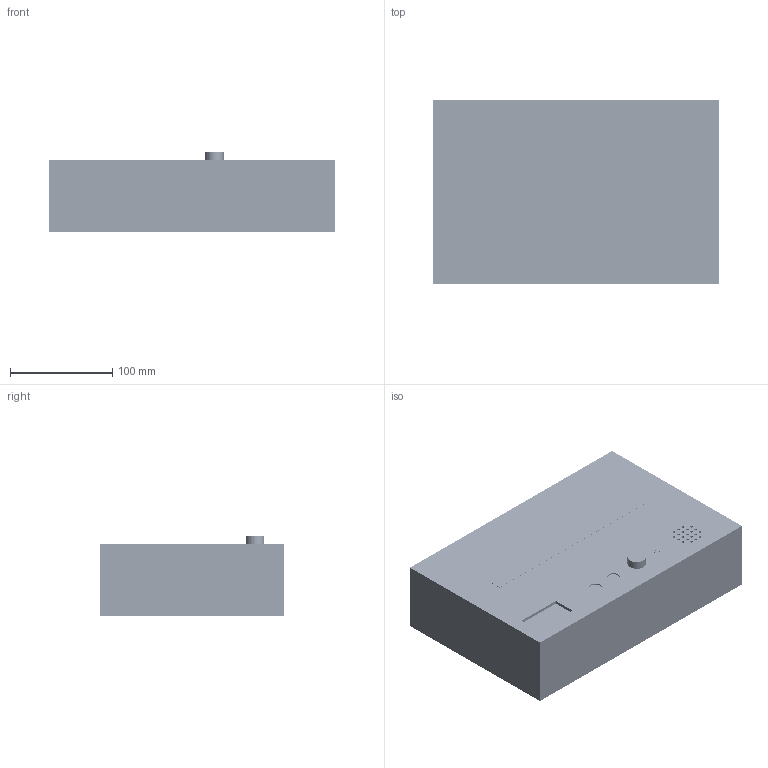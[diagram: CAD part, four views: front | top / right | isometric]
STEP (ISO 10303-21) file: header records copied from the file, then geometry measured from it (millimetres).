
FILE_DESCRIPTION(('FreeCAD Model'),'2;1');
FILE_NAME('Open CASCADE Shape Model','2026-11-20T15:28:29',(''),(''), 'Open CASCADE STEP processor 7.9','FreeCAD','Unknown');
FILE_SCHEMA(('AUTOMOTIVE_DESIGN { 1 0 10303 214 1 1 1 1 }'));
Length unit declared in the file: millimetre
Products named in the file (67): Medidor_E7_Perforadas; Gabinete E7; Tapa E7; Guarda 120V E7; T1 Perforada 50x40; T1 Donas; T1 J1 Entrada 5V bornera; T1 PTC 2A y 1N5822; T1 C1 470u 35V; T1 MT3608 36x17; T1 MT3608 potenciometro ajuste; T1 C17 680u 16V; T1 C PWR3 JST2; T1 C PWR4 JST2; T1 C PWR5 JST3; T2 Perforada 70x55; T2 Donas; T2 Jacks SCT 3p5mm; T2 Burdens precision 1pct; T2 Pasivos CH1 CH2; T2 C7 VBIAS; T2 C ADC I JST4; T3 Perforada 55x45; T3 Donas; T3 Filtro V precision; T3 J5 ZMPT MBT bornera3; T3 C ADC V JST3; T3 C PWR3 JST2; T4 Perforada 80x65; T4 Donas; T4 ESP32S V1p1 PCB 58x28; T4 ESP32S Headers 38P; T4 ESP32S RF Shield; T4 ESP32S USB C; T4 ESP32S EN BOOT; T4 C LCD JST8; T4 C ADC I JST4; T4 C ADC V JST3; T4 C UI D JST3; T4 C UI E JST5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
Assembly tree (66 placements, depth 2):
  Medidor_E7_Perforadas
    Gabinete E7
    Tapa E7
    Guarda 120V E7
    T1 Perforada 50x40
    T1 Donas
    T1 J1 Entrada 5V bornera
    T1 PTC 2A y 1N5822
    T1 C1 470u 35V
    T1 MT3608 36x17
    T1 MT3608 potenciometro ajuste
    T1 C17 680u 16V
    T1 C PWR3 JST2
    T1 C PWR4 JST2
    T1 C PWR5 JST3
    T2 Perforada 70x55
    T2 Donas
    T2 Jacks SCT 3p5mm
    T2 Burdens precision 1pct
    T2 Pasivos CH1 CH2
    T2 C7 VBIAS
    T2 C ADC I JST4
    T3 Perforada 55x45
    T3 Donas
    T3 Filtro V precision
    T3 J5 ZMPT MBT bornera3
    T3 C ADC V JST3
    T3 C PWR3 JST2
    T4 Perforada 80x65
    T4 Donas
    T4 ESP32S V1p1 PCB 58x28
    T4 ESP32S Headers 38P
    T4 ESP32S RF Shield
    T4 ESP32S USB C
    T4 ESP32S EN BOOT
    T4 C LCD JST8
    T4 C ADC I JST4
    T4 C ADC V JST3
    T4 C UI D JST3
    T4 C UI E JST5
    T4 LED estado D8
    T5 Perforada 65x50
    T5 Donas
    T5 U3 74HCT245N DIP20
    T5 Encoder Filtros
    T5 Q1 Piezo Driver
    T5 C UI E JST5
    T5 C UI D JST3
    T5 C PIX JST3
    Postes M3
    Arneses Senal E7
    Bus 5V GND Estrella
    Soporte FCOB 12p6mm
    BTF FCOB WS2811 12V 4segmentos 200mm
    Segmentos WS2811 4
    Difusor FCOB 204x14
    LCD 1p9 ST7789 51p2x27p3
    Encoder EC11 cuerpo
    Perilla EC11 eje6mm
    SW12BP 12mm
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Bounding box: 280 x 180 x 78 mm (x, y, z)
Volume: 657019.6 mm3; surface area: 517064.3 mm2
Topology: 2161 solids, 2161 shells, 8803 faces, 13424 edges, 8944 vertices
Faces by surface type: plane 4624, cylinder 4179
Full cylindrical faces by diameter (mm): 0.9 x2039, 1.5 x9, 2.3 x2039, 2.4 x7, 2.7 x7, 2.8 x22, 3.2 x20, 5 x2, 5.4 x1, 5.6 x1, 6 x1, 6.4 x20, 7.6 x1, 8 x1, 10 x2, 12 x3, 12.4 x2, 18 x1, 44 x1
Entity records: 204510 total; most frequent: DIRECTION 39522, CARTESIAN_POINT 31238, ORIENTED_EDGE 26848, AXIS2_PLACEMENT_3D 17228, EDGE_CURVE 13424, FACE_BOUND 12976, EDGE_LOOP 12976, VERTEX_POINT 8944
